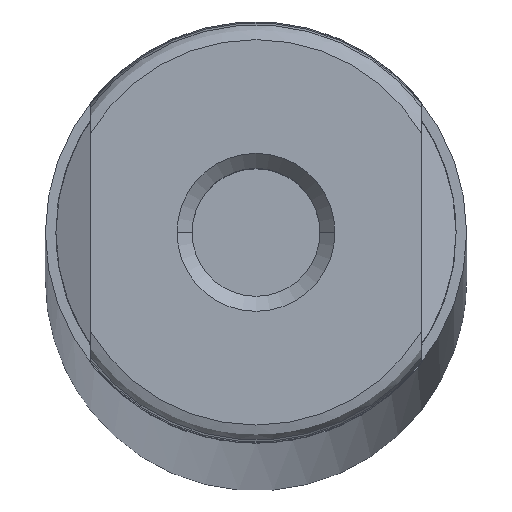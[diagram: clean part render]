
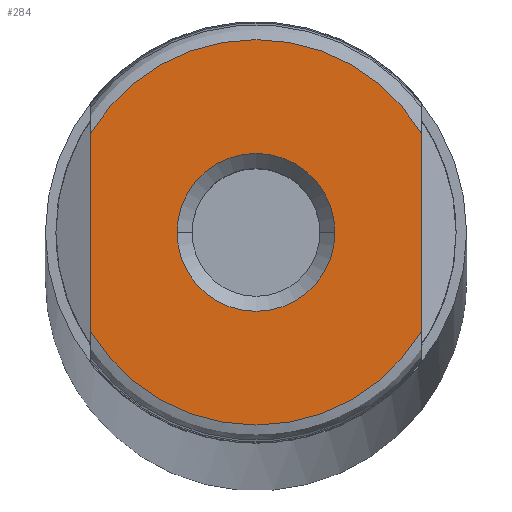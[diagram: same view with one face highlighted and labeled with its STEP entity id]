
A CAD part, top view. The second image highlights one B-rep face of the part: STEP entity #284.
In plain terms, the highlighted planar face has unit normal (0, 0, 1).
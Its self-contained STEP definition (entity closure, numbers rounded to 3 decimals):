
#138 = ORIENTED_EDGE ( 'NONE', *, *, #139, .F. ) ;
#139 = EDGE_CURVE ( 'NONE', #255, #296, #520, .T. ) ;
#254 = VERTEX_POINT ( 'NONE', #883 ) ;
#255 = VERTEX_POINT ( 'NONE', #878 ) ;
#284 = ADVANCED_FACE ( 'NONE', ( #729, #728 ), #727, .F. ) ;
#285 = EDGE_LOOP ( 'NONE', ( #286, #288 ) ) ;
#286 = ORIENTED_EDGE ( 'NONE', *, *, #287, .F. ) ;
#287 = EDGE_CURVE ( 'NONE', #315, #465, #721, .T. ) ;
#288 = ORIENTED_EDGE ( 'NONE', *, *, #467, .F. ) ;
#289 = EDGE_LOOP ( 'NONE', ( #290, #291, #294, #138 ) ) ;
#290 = ORIENTED_EDGE ( 'NONE', *, *, #417, .T. ) ;
#291 = ORIENTED_EDGE ( 'NONE', *, *, #292, .T. ) ;
#292 = EDGE_CURVE ( 'NONE', #254, #293, #1091, .T. ) ;
#293 = VERTEX_POINT ( 'NONE', #1067 ) ;
#294 = ORIENTED_EDGE ( 'NONE', *, *, #295, .T. ) ;
#295 = EDGE_CURVE ( 'NONE', #293, #296, #1065, .T. ) ;
#296 = VERTEX_POINT ( 'NONE', #1066 ) ;
#315 = VERTEX_POINT ( 'NONE', #947 ) ;
#417 = EDGE_CURVE ( 'NONE', #255, #254, #1265, .T. ) ;
#465 = VERTEX_POINT ( 'NONE', #1290 ) ;
#467 = EDGE_CURVE ( 'NONE', #465, #315, #1289, .T. ) ;
#517 = DIRECTION ( 'NONE',  ( 0., 1., 0. ) ) ;
#518 = VECTOR ( 'NONE', #517, 1000. ) ;
#519 = CARTESIAN_POINT ( 'NONE',  ( -11., -14., 0. ) ) ;
#520 = LINE ( 'NONE', #519, #518 ) ;
#664 = DIRECTION ( 'NONE',  ( 0., 0., 1. ) ) ;
#719 = CARTESIAN_POINT ( 'NONE',  ( 0., 0., 0. ) ) ;
#720 = AXIS2_PLACEMENT_3D ( 'NONE', #719, #664, #1115 ) ;
#721 = CIRCLE ( 'NONE', #720, 5.25 ) ;
#723 = DIRECTION ( 'NONE',  ( -1., 0., 0. ) ) ;
#724 = DIRECTION ( 'NONE',  ( 0., 0., -1. ) ) ;
#725 = CARTESIAN_POINT ( 'NONE',  ( 0., 0., 0. ) ) ;
#726 = AXIS2_PLACEMENT_3D ( 'NONE', #725, #724, #723 ) ;
#727 = PLANE ( 'NONE',  #726 ) ;
#728 = FACE_OUTER_BOUND ( 'NONE', #289, .T. ) ;
#729 = FACE_BOUND ( 'NONE', #285, .T. ) ;
#878 = CARTESIAN_POINT ( 'NONE',  ( -11., -6.56, 0. ) ) ;
#883 = CARTESIAN_POINT ( 'NONE',  ( 11., -6.56, 0. ) ) ;
#947 = CARTESIAN_POINT ( 'NONE',  ( 5.25, 0., 0. ) ) ;
#1062 = DIRECTION ( 'NONE',  ( 0., 0., 1. ) ) ;
#1063 = CARTESIAN_POINT ( 'NONE',  ( 0., 0., 0. ) ) ;
#1064 = AXIS2_PLACEMENT_3D ( 'NONE', #1063, #1062, #1088 ) ;
#1065 = CIRCLE ( 'NONE', #1064, 12.808 ) ;
#1066 = CARTESIAN_POINT ( 'NONE',  ( -11., 6.56, 0. ) ) ;
#1067 = CARTESIAN_POINT ( 'NONE',  ( 11., 6.56, 0. ) ) ;
#1068 = DIRECTION ( 'NONE',  ( 0., 1., 0. ) ) ;
#1088 = DIRECTION ( 'NONE',  ( 1., 0., 0. ) ) ;
#1089 = VECTOR ( 'NONE', #1068, 1000. ) ;
#1090 = CARTESIAN_POINT ( 'NONE',  ( 11., -14., 0. ) ) ;
#1091 = LINE ( 'NONE', #1090, #1089 ) ;
#1115 = DIRECTION ( 'NONE',  ( 1., 0., 0. ) ) ;
#1261 = DIRECTION ( 'NONE',  ( 1., 0., 0. ) ) ;
#1262 = DIRECTION ( 'NONE',  ( 0., 0., 1. ) ) ;
#1263 = CARTESIAN_POINT ( 'NONE',  ( 0., 0., 0. ) ) ;
#1264 = AXIS2_PLACEMENT_3D ( 'NONE', #1263, #1262, #1261 ) ;
#1265 = CIRCLE ( 'NONE', #1264, 12.808 ) ;
#1285 = DIRECTION ( 'NONE',  ( 1., 0., 0. ) ) ;
#1286 = DIRECTION ( 'NONE',  ( 0., 0., 1. ) ) ;
#1287 = CARTESIAN_POINT ( 'NONE',  ( 0., 0., 0. ) ) ;
#1288 = AXIS2_PLACEMENT_3D ( 'NONE', #1287, #1286, #1285 ) ;
#1289 = CIRCLE ( 'NONE', #1288, 5.25 ) ;
#1290 = CARTESIAN_POINT ( 'NONE',  ( -5.25, 0., 0. ) ) ;
